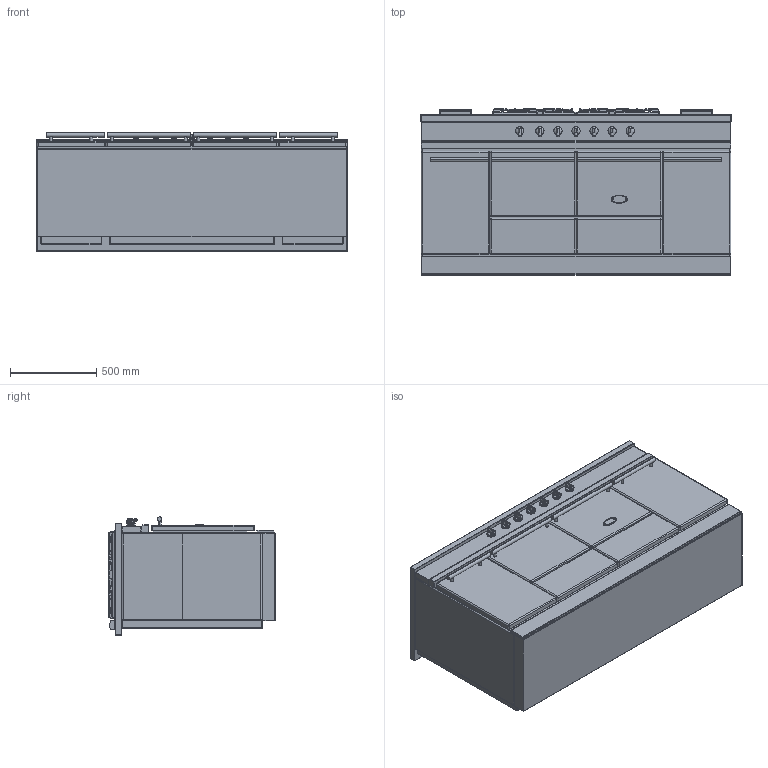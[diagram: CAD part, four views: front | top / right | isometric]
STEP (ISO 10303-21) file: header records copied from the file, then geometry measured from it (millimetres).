
FILE_DESCRIPTION((''),'2;1');
FILE_NAME('LMG1852_ASM','2022-04-13T11:39:57',('stagiaire'),(''),'CREO PARAMETRIC BY PTC INC, 2021424','CREO PARAMETRIC BY PTC INC, 2021424','');
FILE_SCHEMA(('AP203_CONFIGURATION_CONTROLLED_3D_DESIGN_OF_MECHANICAL_PARTS_AND_ASSEMBLIES_MIM_LF { 1 0 10303 403 2 1 2 }'));
Products named in the file (21): BASE_EXPORT_CLUNY_1800_MODERN; 65064012; 19150009; 88064012_ASM; 65650001; 65049009; BASE_EXPORT_CLUNY_1800_MODERN_ASM; TABLE_1805_CLASSIQUE; 3KW; 5KW; 1_5KW; 4KW; 6537025; 65149005; 90000488_ASM; 6537023; 90000565_ASM; CHEMINEE_2020_LG182_EXPORT_STEP; CHEMINEE_2020_LG371_EXPORT_STEP; TABLE_1805_CLASSIQUE_ASM; LMG1852_ASM
Assembly tree (38 placements, depth 4):
  LMG1852_ASM
    BASE_EXPORT_CLUNY_1800_MODERN_ASM
      BASE_EXPORT_CLUNY_1800_MODERN
      88064012_ASM  x7
        65064012
        19150009
      65650001
      65049009
    TABLE_1805_CLASSIQUE_ASM
      TABLE_1805_CLASSIQUE
      3KW  x2
      5KW
      1_5KW
      4KW
      90000488_ASM  x2
        6537025
        65149005
      90000565_ASM  x2
        6537023
        65149005
      CHEMINEE_2020_LG182_EXPORT_STEP  x2
      CHEMINEE_2020_LG371_EXPORT_STEP  x2
Bounding box: 1805 x 965 x 687.75 mm (x, y, z)
Volume: 656466625.3 mm3; surface area: 15766445.2 mm2
Topology: 51 solids, 51 shells, 6363 faces, 17579 edges, 11260 vertices
Faces by surface type: cylinder 2168, plane 1966, bspline 1347, sphere 332, cone 323, torus 185, extrusion 42
Entity records: 144453 total; most frequent: CARTESIAN_POINT 48867, ORIENTED_EDGE 15578, DIRECTION 14497, EDGE_CURVE 7789, AXIS2_PLACEMENT_3D 4925, VERTEX_POINT 4725, VECTOR 4589, LINE 4567
